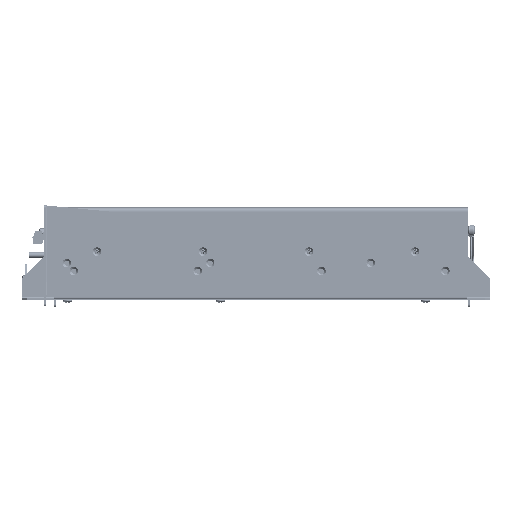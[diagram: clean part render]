
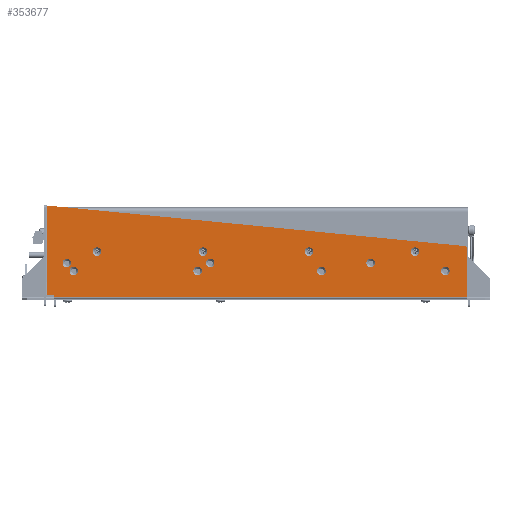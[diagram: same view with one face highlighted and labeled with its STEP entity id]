
A CAD part, front view. The second image highlights one B-rep face of the part: STEP entity #353677.
In plain terms, the highlighted planar face has unit normal (0, -1, 0) as drawn and (1, 0, 0) by its records, which use the part's own axes.
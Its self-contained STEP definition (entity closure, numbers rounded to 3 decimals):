
#14222=CIRCLE('',#372862,2.);
#14233=CIRCLE('',#372878,3.75);
#14235=CIRCLE('',#372881,3.75);
#14237=CIRCLE('',#372884,3.75);
#14239=CIRCLE('',#372887,3.75);
#14241=CIRCLE('',#372890,3.75);
#14243=CIRCLE('',#372893,3.75);
#14245=CIRCLE('',#372896,3.75);
#14247=CIRCLE('',#372899,3.75);
#14249=CIRCLE('',#372902,3.75);
#14251=CIRCLE('',#372905,3.75);
#14253=CIRCLE('',#372908,3.75);
#82448=ORIENTED_EDGE('',*,*,#124063,.F.);
#82449=ORIENTED_EDGE('',*,*,#124031,.T.);
#82450=ORIENTED_EDGE('',*,*,#124064,.F.);
#82451=ORIENTED_EDGE('',*,*,#124065,.F.);
#82452=ORIENTED_EDGE('',*,*,#124061,.F.);
#82453=ORIENTED_EDGE('',*,*,#124066,.F.);
#82454=ORIENTED_EDGE('',*,*,#123955,.F.);
#82455=ORIENTED_EDGE('',*,*,#123997,.F.);
#82456=ORIENTED_EDGE('',*,*,#123995,.F.);
#82457=ORIENTED_EDGE('',*,*,#123993,.F.);
#82458=ORIENTED_EDGE('',*,*,#123991,.F.);
#82459=ORIENTED_EDGE('',*,*,#123989,.F.);
#82460=ORIENTED_EDGE('',*,*,#123987,.F.);
#82461=ORIENTED_EDGE('',*,*,#123985,.F.);
#82462=ORIENTED_EDGE('',*,*,#123983,.F.);
#82463=ORIENTED_EDGE('',*,*,#123981,.F.);
#82464=ORIENTED_EDGE('',*,*,#123979,.F.);
#82465=ORIENTED_EDGE('',*,*,#123977,.F.);
#123955=EDGE_CURVE('',#150837,#150838,#14222,.T.);
#123977=EDGE_CURVE('',#150858,#150858,#14233,.T.);
#123979=EDGE_CURVE('',#150860,#150860,#14235,.T.);
#123981=EDGE_CURVE('',#150862,#150862,#14237,.T.);
#123983=EDGE_CURVE('',#150864,#150864,#14239,.T.);
#123985=EDGE_CURVE('',#150866,#150866,#14241,.T.);
#123987=EDGE_CURVE('',#150868,#150868,#14243,.T.);
#123989=EDGE_CURVE('',#150870,#150870,#14245,.T.);
#123991=EDGE_CURVE('',#150872,#150872,#14247,.T.);
#123993=EDGE_CURVE('',#150874,#150874,#14249,.T.);
#123995=EDGE_CURVE('',#150876,#150876,#14251,.T.);
#123997=EDGE_CURVE('',#150878,#150878,#14253,.T.);
#124031=EDGE_CURVE('',#150903,#150904,#178727,.T.);
#124061=EDGE_CURVE('',#150919,#150920,#178748,.T.);
#124063=EDGE_CURVE('',#150903,#150837,#178749,.T.);
#124064=EDGE_CURVE('',#150921,#150904,#178750,.T.);
#124065=EDGE_CURVE('',#150920,#150921,#178751,.T.);
#124066=EDGE_CURVE('',#150838,#150919,#178752,.T.);
#150837=VERTEX_POINT('',#569648);
#150838=VERTEX_POINT('',#569649);
#150858=VERTEX_POINT('',#569699);
#150860=VERTEX_POINT('',#569704);
#150862=VERTEX_POINT('',#569709);
#150864=VERTEX_POINT('',#569714);
#150866=VERTEX_POINT('',#569719);
#150868=VERTEX_POINT('',#569724);
#150870=VERTEX_POINT('',#569729);
#150872=VERTEX_POINT('',#569734);
#150874=VERTEX_POINT('',#569739);
#150876=VERTEX_POINT('',#569744);
#150878=VERTEX_POINT('',#569749);
#150903=VERTEX_POINT('',#569819);
#150904=VERTEX_POINT('',#569820);
#150919=VERTEX_POINT('',#569903);
#150920=VERTEX_POINT('',#569905);
#150921=VERTEX_POINT('',#569910);
#178727=LINE('',#569818,#206269);
#178748=LINE('',#569904,#206290);
#178749=LINE('',#569908,#206291);
#178750=LINE('',#569909,#206292);
#178751=LINE('',#569911,#206293);
#178752=LINE('',#569912,#206294);
#206269=VECTOR('',#435076,1000.);
#206290=VECTOR('',#435129,1000.);
#206291=VECTOR('',#435134,1000.);
#206292=VECTOR('',#435135,1000.);
#206293=VECTOR('',#435136,1000.);
#206294=VECTOR('',#435137,1000.);
#226381=EDGE_LOOP('',(#82448,#82449,#82450,#82451,#82452,#82453,#82454));
#226382=EDGE_LOOP('',(#82455));
#226383=EDGE_LOOP('',(#82456));
#226384=EDGE_LOOP('',(#82457));
#226385=EDGE_LOOP('',(#82458));
#226386=EDGE_LOOP('',(#82459));
#226387=EDGE_LOOP('',(#82460));
#226388=EDGE_LOOP('',(#82461));
#226389=EDGE_LOOP('',(#82462));
#226390=EDGE_LOOP('',(#82463));
#226391=EDGE_LOOP('',(#82464));
#226392=EDGE_LOOP('',(#82465));
#246182=FACE_BOUND('',#226381,.T.);
#246183=FACE_BOUND('',#226382,.T.);
#246184=FACE_BOUND('',#226383,.T.);
#246185=FACE_BOUND('',#226384,.T.);
#246186=FACE_BOUND('',#226385,.T.);
#246187=FACE_BOUND('',#226386,.T.);
#246188=FACE_BOUND('',#226387,.T.);
#246189=FACE_BOUND('',#226388,.T.);
#246190=FACE_BOUND('',#226389,.T.);
#246191=FACE_BOUND('',#226390,.T.);
#246192=FACE_BOUND('',#226391,.T.);
#246193=FACE_BOUND('',#226392,.T.);
#257375=PLANE('',#372947);
#353677=ADVANCED_FACE('',(#246182,#246183,#246184,#246185,#246186,#246187,
#246188,#246189,#246190,#246191,#246192,#246193),#257375,.T.);
#372862=AXIS2_PLACEMENT_3D('',#569647,#434907,#434908);
#372878=AXIS2_PLACEMENT_3D('',#569698,#434949,#434950);
#372881=AXIS2_PLACEMENT_3D('',#569703,#434955,#434956);
#372884=AXIS2_PLACEMENT_3D('',#569708,#434961,#434962);
#372887=AXIS2_PLACEMENT_3D('',#569713,#434967,#434968);
#372890=AXIS2_PLACEMENT_3D('',#569718,#434973,#434974);
#372893=AXIS2_PLACEMENT_3D('',#569723,#434979,#434980);
#372896=AXIS2_PLACEMENT_3D('',#569728,#434985,#434986);
#372899=AXIS2_PLACEMENT_3D('',#569733,#434991,#434992);
#372902=AXIS2_PLACEMENT_3D('',#569738,#434997,#434998);
#372905=AXIS2_PLACEMENT_3D('',#569743,#435003,#435004);
#372908=AXIS2_PLACEMENT_3D('',#569748,#435009,#435010);
#372947=AXIS2_PLACEMENT_3D('',#569907,#435132,#435133);
#434907=DIRECTION('',(-1.,0.,0.));
#434908=DIRECTION('',(0.,0.,-1.));
#434949=DIRECTION('',(1.,0.,0.));
#434950=DIRECTION('',(0.,0.,-1.));
#434955=DIRECTION('',(1.,0.,0.));
#434956=DIRECTION('',(0.,0.,-1.));
#434961=DIRECTION('',(1.,0.,0.));
#434962=DIRECTION('',(0.,0.,-1.));
#434967=DIRECTION('',(1.,0.,0.));
#434968=DIRECTION('',(0.,0.,-1.));
#434973=DIRECTION('',(1.,0.,0.));
#434974=DIRECTION('',(0.,0.,-1.));
#434979=DIRECTION('',(1.,0.,0.));
#434980=DIRECTION('',(0.,0.,-1.));
#434985=DIRECTION('',(1.,0.,0.));
#434986=DIRECTION('',(0.,0.,-1.));
#434991=DIRECTION('',(1.,0.,0.));
#434992=DIRECTION('',(0.,0.,-1.));
#434997=DIRECTION('',(1.,0.,0.));
#434998=DIRECTION('',(0.,0.,-1.));
#435003=DIRECTION('',(1.,0.,0.));
#435004=DIRECTION('',(0.,0.,-1.));
#435009=DIRECTION('',(1.,0.,0.));
#435010=DIRECTION('',(0.,0.,-1.));
#435076=DIRECTION('',(0.,0.,-1.));
#435129=DIRECTION('',(0.,-1.,0.));
#435132=DIRECTION('',(1.,0.,0.));
#435133=DIRECTION('',(0.,0.,1.));
#435134=DIRECTION('',(0.,0.995,-0.097));
#435135=DIRECTION('',(0.,-1.,0.));
#435136=DIRECTION('',(0.,0.,1.));
#435137=DIRECTION('',(0.,0.,-1.));
#569647=CARTESIAN_POINT('',(223.5,178.,44.339));
#569648=CARTESIAN_POINT('',(223.5,178.193,46.33));
#569649=CARTESIAN_POINT('',(223.5,180.,44.339));
#569698=CARTESIAN_POINT('',(223.5,-142.75,41.5));
#569699=CARTESIAN_POINT('',(223.5,-142.75,37.75));
#569703=CARTESIAN_POINT('',(223.5,-50.25,41.5));
#569704=CARTESIAN_POINT('',(223.5,-50.25,37.75));
#569708=CARTESIAN_POINT('',(223.5,42.25,41.5));
#569709=CARTESIAN_POINT('',(223.5,42.25,37.75));
#569713=CARTESIAN_POINT('',(223.5,134.75,41.5));
#569714=CARTESIAN_POINT('',(223.5,134.75,37.75));
#569718=CARTESIAN_POINT('',(223.5,-169.,31.5));
#569719=CARTESIAN_POINT('',(223.5,-169.,27.75));
#569723=CARTESIAN_POINT('',(223.5,-44.,31.5));
#569724=CARTESIAN_POINT('',(223.5,-44.,27.75));
#569728=CARTESIAN_POINT('',(223.5,96.,31.5));
#569729=CARTESIAN_POINT('',(223.5,96.,27.75));
#569733=CARTESIAN_POINT('',(223.5,161.034,24.5));
#569734=CARTESIAN_POINT('',(223.5,161.034,20.75));
#569738=CARTESIAN_POINT('',(223.5,53.034,24.5));
#569739=CARTESIAN_POINT('',(223.5,53.034,20.75));
#569743=CARTESIAN_POINT('',(223.5,-55.,24.5));
#569744=CARTESIAN_POINT('',(223.5,-55.,20.75));
#569748=CARTESIAN_POINT('',(223.5,-162.966,24.5));
#569749=CARTESIAN_POINT('',(223.5,-162.966,20.75));
#569818=CARTESIAN_POINT('',(223.5,-186.5,81.757));
#569819=CARTESIAN_POINT('',(223.5,-186.5,81.757));
#569820=CARTESIAN_POINT('',(223.5,-186.5,3.757));
#569903=CARTESIAN_POINT('',(223.5,180.,1.7));
#569904=CARTESIAN_POINT('',(223.5,180.,1.7));
#569905=CARTESIAN_POINT('',(223.5,-180.,1.7));
#569907=CARTESIAN_POINT('',(223.5,180.,1.154));
#569908=CARTESIAN_POINT('',(223.5,180.,46.154));
#569909=CARTESIAN_POINT('',(223.5,-180.,3.757));
#569910=CARTESIAN_POINT('',(223.5,-180.,3.757));
#569911=CARTESIAN_POINT('',(223.5,-180.,1.5));
#569912=CARTESIAN_POINT('',(223.5,180.,1.5));
